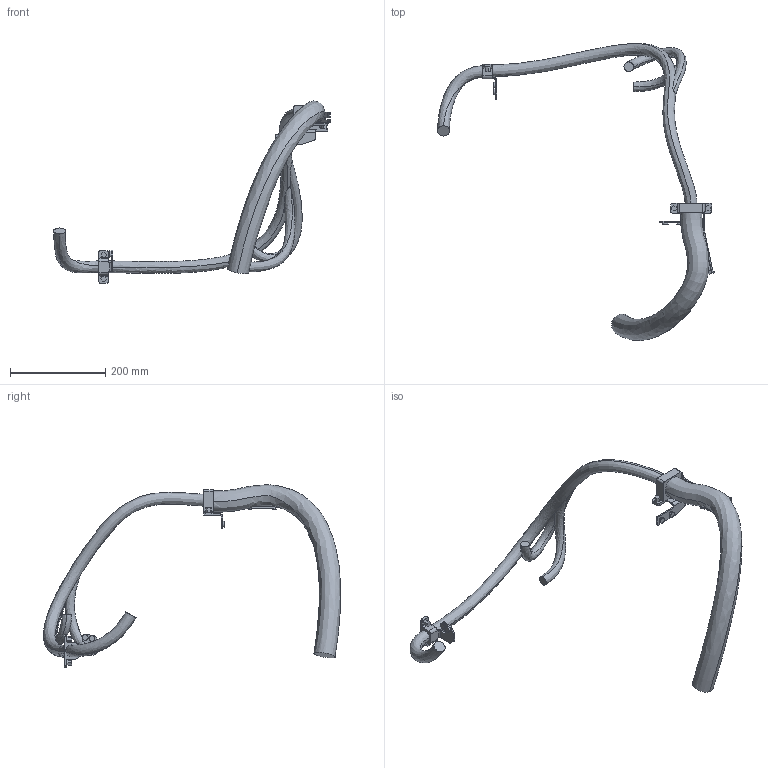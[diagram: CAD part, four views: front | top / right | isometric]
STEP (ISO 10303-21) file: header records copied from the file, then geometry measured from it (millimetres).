
FILE_DESCRIPTION (( 'STEP AP214' ), '1' );
FILE_NAME ('IRB5720-MH3_125kg-300_OmniCore_rev00_LINK03m_CABLE.step', '2025-07-08T11:14:11', ( '' ), ( '' ), 'SwSTEP 2.0', 'SolidWorks 2024', '' );
FILE_SCHEMA (( 'AUTOMOTIVE_DESIGN' ));
Length unit declared in the file: millimetre
Products named in the file (1): IRB5720-MH3_125kg-300_OmniCore_rev00_LINK03m_CABLE
Bounding box: 581.65 x 624.78 x 382.89 mm (x, y, z)
Volume: 1660541.6 mm3; surface area: 227458.9 mm2
Topology: 2 solids, 4 shells, 249 faces, 634 edges, 397 vertices
Faces by surface type: plane 154, cylinder 84, bspline 11
Entity records: 13937 total; most frequent: CARTESIAN_POINT 5151, ORIENTED_EDGE 1268, DIRECTION 1242, EDGE_CURVE 634, AXIS2_PLACEMENT_3D 419, LINE 404, VECTOR 404, VERTEX_POINT 397
